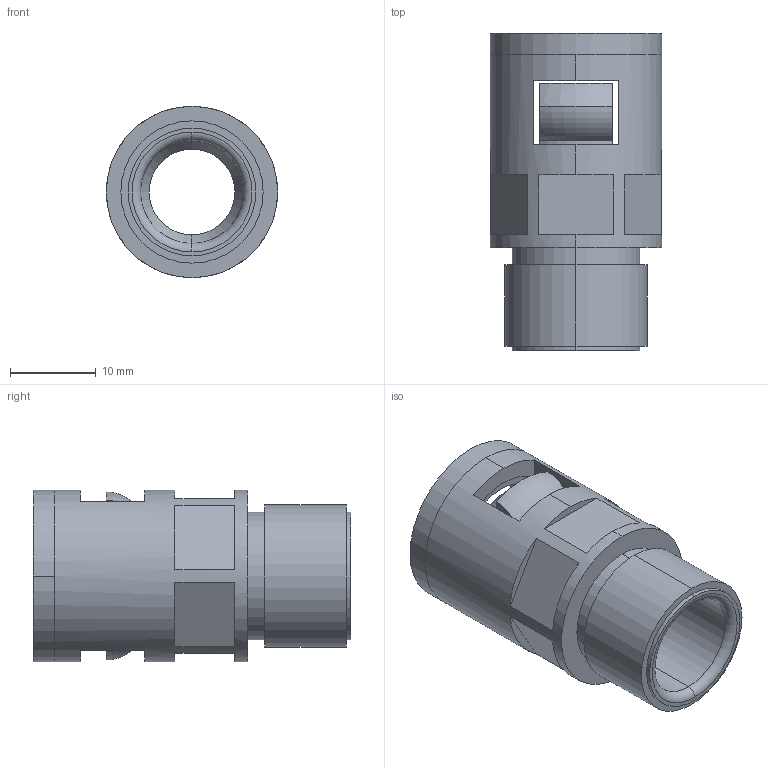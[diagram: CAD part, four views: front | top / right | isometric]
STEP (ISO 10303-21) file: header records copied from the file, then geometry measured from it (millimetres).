
FILE_DESCRIPTION (( 'STEP AP203' ), '1' );
FILE_NAME ('WQG-G3-8-AD13.0.STEP', '2015-12-23T07:47:15', ( 'User' ), ( 'Microsoft' ), 'SwSTEP 2.0', 'SolidWorks 2010', '' );
FILE_SCHEMA (( 'CONFIG_CONTROL_DESIGN' ));
Length unit declared in the file: millimetre
Products named in the file (4): WQG-G3-8-AD13.0; WQG-G3-8-AD13.0-01; NSK-AD13.0; GFD-AD13.0
Assembly tree (3 placements, depth 2):
  WQG-G3-8-AD13.0
    WQG-G3-8-AD13.0-01
    NSK-AD13.0
    GFD-AD13.0
Bounding box: 20 x 37 x 20 mm (x, y, z)
Volume: 3897.5 mm3; surface area: 6823.2 mm2
Topology: 2 solids, 5 shells, 143 faces, 332 edges, 202 vertices
Faces by surface type: plane 53, cone 46, cylinder 24, torus 20
Entity records: 4608 total; most frequent: CARTESIAN_POINT 812, DIRECTION 790, ORIENTED_EDGE 656, EDGE_CURVE 332, AXIS2_PLACEMENT_3D 324, VERTEX_POINT 202, CIRCLE 174, EDGE_LOOP 162
